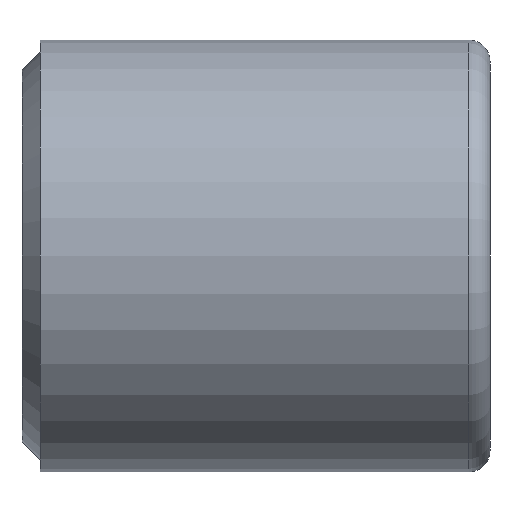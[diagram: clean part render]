
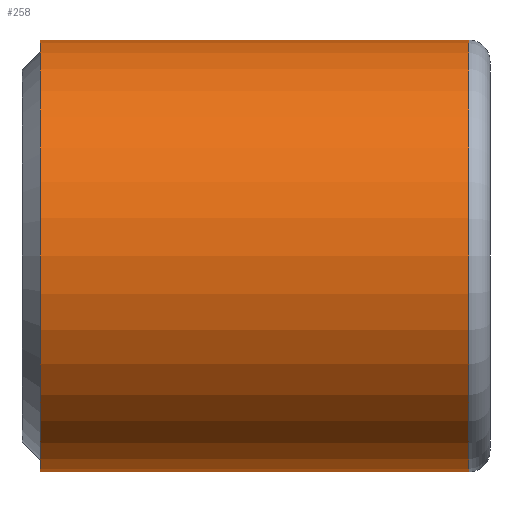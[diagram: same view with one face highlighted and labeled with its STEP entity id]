
A CAD part, front view. The second image highlights one B-rep face of the part: STEP entity #258.
In plain terms, the highlighted cylindrical face has radius 19.215 mm (diameter 38.43 mm), a partial arc.
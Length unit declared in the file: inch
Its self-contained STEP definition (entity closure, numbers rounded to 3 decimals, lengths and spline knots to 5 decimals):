
#18 = CIRCLE ( 'NONE', #454, 0.7565 ) ;
#27 = EDGE_CURVE ( 'NONE', #94, #503, #712, .T. ) ;
#94 = VERTEX_POINT ( 'NONE', #641 ) ;
#103 = ORIENTED_EDGE ( 'NONE', *, *, #167, .T. ) ;
#137 = DIRECTION ( 'NONE',  ( -1., 0., 0. ) ) ;
#145 = CARTESIAN_POINT ( 'NONE',  ( 0., 0., 0.7565 ) ) ;
#162 = DIRECTION ( 'NONE',  ( 0., 0., 1. ) ) ;
#167 = EDGE_CURVE ( 'NONE', #516, #503, #803, .T. ) ;
#197 = DIRECTION ( 'NONE',  ( -1., 0., 0. ) ) ;
#212 = CARTESIAN_POINT ( 'NONE',  ( 1.56424, 0., -0.7565 ) ) ;
#257 = CARTESIAN_POINT ( 'NONE',  ( 1.56424, 0., 0.7565 ) ) ;
#258 = ADVANCED_FACE ( 'NONE', ( #726 ), #309, .T. ) ;
#286 = DIRECTION ( 'NONE',  ( 0., 0., 1. ) ) ;
#292 = CARTESIAN_POINT ( 'NONE',  ( 0., 0., -0.7565 ) ) ;
#309 = CYLINDRICAL_SURFACE ( 'NONE', #714, 0.7565 ) ;
#347 = CARTESIAN_POINT ( 'NONE',  ( 1.56424, 0., 0. ) ) ;
#358 = EDGE_CURVE ( 'NONE', #604, #516, #18, .T. ) ;
#389 = VECTOR ( 'NONE', #873, 39.37008 ) ;
#392 = AXIS2_PLACEMENT_3D ( 'NONE', #930, #635, #855 ) ;
#394 = CARTESIAN_POINT ( 'NONE',  ( 0.06474, 0., 0.7565 ) ) ;
#454 = AXIS2_PLACEMENT_3D ( 'NONE', #347, #197, #286 ) ;
#459 = ORIENTED_EDGE ( 'NONE', *, *, #358, .T. ) ;
#492 = EDGE_LOOP ( 'NONE', ( #544, #459, #103, #780 ) ) ;
#503 = VERTEX_POINT ( 'NONE', #394 ) ;
#516 = VERTEX_POINT ( 'NONE', #257 ) ;
#544 = ORIENTED_EDGE ( 'NONE', *, *, #602, .F. ) ;
#593 = CARTESIAN_POINT ( 'NONE',  ( 0., 0., 0. ) ) ;
#602 = EDGE_CURVE ( 'NONE', #604, #94, #938, .T. ) ;
#604 = VERTEX_POINT ( 'NONE', #212 ) ;
#635 = DIRECTION ( 'NONE',  ( -1., 0., 0. ) ) ;
#641 = CARTESIAN_POINT ( 'NONE',  ( 0.06474, 0., -0.7565 ) ) ;
#698 = VECTOR ( 'NONE', #137, 39.37008 ) ;
#712 = CIRCLE ( 'NONE', #392, 0.7565 ) ;
#714 = AXIS2_PLACEMENT_3D ( 'NONE', #593, #795, #162 ) ;
#726 = FACE_OUTER_BOUND ( 'NONE', #492, .T. ) ;
#780 = ORIENTED_EDGE ( 'NONE', *, *, #27, .F. ) ;
#795 = DIRECTION ( 'NONE',  ( -1., 0., 0. ) ) ;
#803 = LINE ( 'NONE', #145, #698 ) ;
#855 = DIRECTION ( 'NONE',  ( 0., 0., 1. ) ) ;
#873 = DIRECTION ( 'NONE',  ( -1., 0., 0. ) ) ;
#930 = CARTESIAN_POINT ( 'NONE',  ( 0.06474, 0., 0. ) ) ;
#938 = LINE ( 'NONE', #292, #389 ) ;
